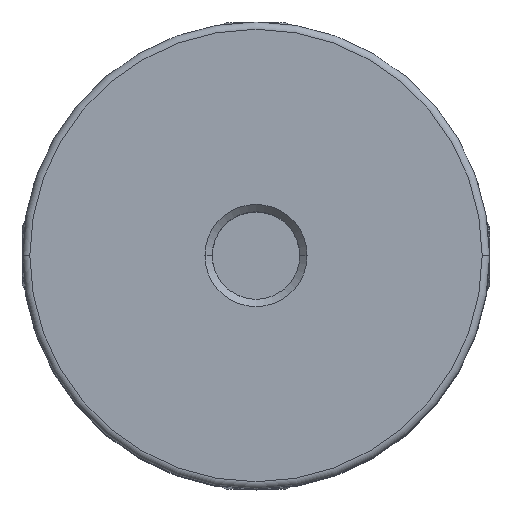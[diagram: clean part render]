
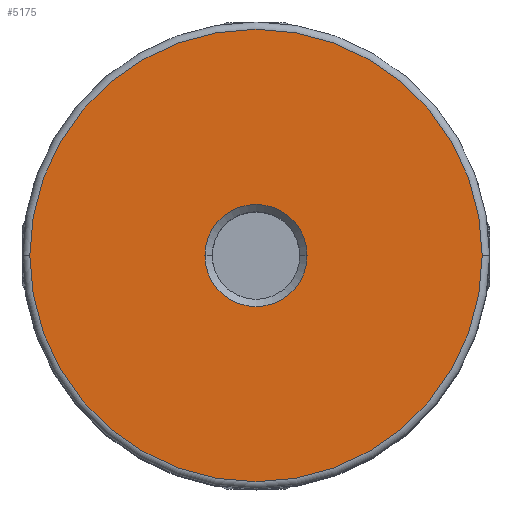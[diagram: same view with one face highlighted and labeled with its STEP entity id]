
A CAD part, top view. The second image highlights one B-rep face of the part: STEP entity #5175.
In plain terms, the highlighted planar face has unit normal (0, 0, 1).
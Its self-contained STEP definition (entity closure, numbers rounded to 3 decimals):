
#70 = CIRCLE ( 'NONE', #3583, 3.5 ) ;
#659 = VERTEX_POINT ( 'NONE', #1704 ) ;
#1142 = EDGE_LOOP ( 'NONE', ( #5793, #5795 ) ) ;
#1383 = EDGE_LOOP ( 'NONE', ( #5797, #5799 ) ) ;
#1523 = EDGE_CURVE ( 'NONE', #5534, #5585, #4105, .T. ) ;
#1524 = EDGE_CURVE ( 'NONE', #5735, #659, #4106, .T. ) ;
#1704 = CARTESIAN_POINT ( 'NONE',  ( 3.5, 0., 15.95 ) ) ;
#2189 = DIRECTION ( 'NONE',  ( -1., 0., 0. ) ) ;
#2190 = DIRECTION ( 'NONE',  ( 0., 0., 1. ) ) ;
#2192 = CARTESIAN_POINT ( 'NONE',  ( 0., 0., 15.95 ) ) ;
#2567 = DIRECTION ( 'NONE',  ( 0., 1., 0. ) ) ;
#2568 = DIRECTION ( 'NONE',  ( 0., 0., -1. ) ) ;
#2569 = CARTESIAN_POINT ( 'NONE',  ( 0., 0., 15.95 ) ) ;
#2570 = DIRECTION ( 'NONE',  ( -1., 0., 0. ) ) ;
#2571 = DIRECTION ( 'NONE',  ( 0., 0., 1. ) ) ;
#2572 = CARTESIAN_POINT ( 'NONE',  ( 0., 0., 15.95 ) ) ;
#2761 = DIRECTION ( 'NONE',  ( 0., 1., 0. ) ) ;
#2762 = DIRECTION ( 'NONE',  ( 0., 0., -1. ) ) ;
#2764 = CARTESIAN_POINT ( 'NONE',  ( 0., 0., 15.95 ) ) ;
#3152 = EDGE_CURVE ( 'NONE', #5585, #5534, #4066, .T. ) ;
#3426 = AXIS2_PLACEMENT_3D ( 'NONE', #2192, #2190, #2189 ) ;
#3492 = AXIS2_PLACEMENT_3D ( 'NONE', #2569, #2568, #2567 ) ;
#3520 = AXIS2_PLACEMENT_3D ( 'NONE', #4613, #4598, #4597 ) ;
#3583 = AXIS2_PLACEMENT_3D ( 'NONE', #2764, #2762, #2761 ) ;
#3584 = AXIS2_PLACEMENT_3D ( 'NONE', #2572, #2571, #2570 ) ;
#3650 = FACE_OUTER_BOUND ( 'NONE', #1383, .T. ) ;
#3656 = FACE_BOUND ( 'NONE', #1142, .T. ) ;
#4066 = CIRCLE ( 'NONE', #3426, 15.5 ) ;
#4105 = CIRCLE ( 'NONE', #3584, 15.5 ) ;
#4106 = CIRCLE ( 'NONE', #3492, 3.5 ) ;
#4127 = EDGE_CURVE ( 'NONE', #659, #5735, #70, .T. ) ;
#4401 = CARTESIAN_POINT ( 'NONE',  ( 15.5, 0., 15.95 ) ) ;
#4428 = CARTESIAN_POINT ( 'NONE',  ( -15.5, 0., 15.95 ) ) ;
#4597 = DIRECTION ( 'NONE',  ( -1., 0., 0. ) ) ;
#4598 = DIRECTION ( 'NONE',  ( 0., 0., -1. ) ) ;
#4604 = PLANE ( 'NONE',  #3520 ) ;
#4613 = CARTESIAN_POINT ( 'NONE',  ( 0., 0., 15.95 ) ) ;
#5175 = ADVANCED_FACE ( 'NONE', ( #3656, #3650 ), #4604, .F. ) ;
#5534 = VERTEX_POINT ( 'NONE', #4428 ) ;
#5585 = VERTEX_POINT ( 'NONE', #4401 ) ;
#5735 = VERTEX_POINT ( 'NONE', #6080 ) ;
#5793 = ORIENTED_EDGE ( 'NONE', *, *, #4127, .T. ) ;
#5795 = ORIENTED_EDGE ( 'NONE', *, *, #1524, .T. ) ;
#5797 = ORIENTED_EDGE ( 'NONE', *, *, #1523, .T. ) ;
#5799 = ORIENTED_EDGE ( 'NONE', *, *, #3152, .T. ) ;
#6080 = CARTESIAN_POINT ( 'NONE',  ( -3.5, 0., 15.95 ) ) ;
